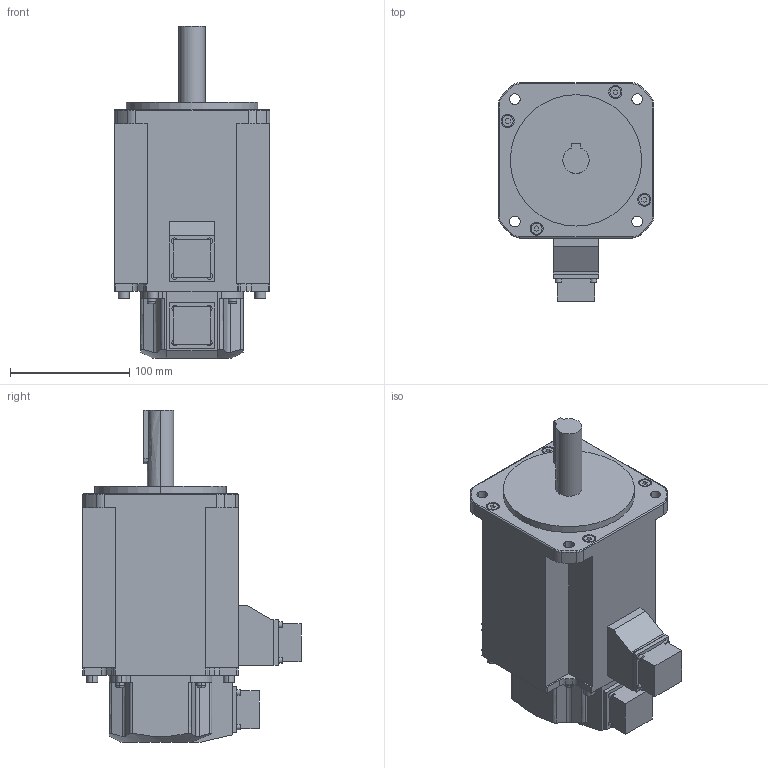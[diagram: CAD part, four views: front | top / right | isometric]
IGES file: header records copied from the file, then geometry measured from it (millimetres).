
Start section:  PTC IGES file: rsmh_10atk3.igs
Global section: file name: rsmh_10atk3.igs; native system: Pro/ENGINEER by Parametric Technology Corporation; preprocessor: 2004440; author: Administrator; organization: Unknown; date: 070829.192926; units: millimetre
Bounding box: 130 x 182.7 x 278 mm (x, y, z)
Volume: 2720377.2 mm3; surface area: 151530.9 mm2
Topology: 1 solids, 1 shells, 290 faces, 744 edges, 488 vertices
Faces by surface type: bspline 164, revolution 126
